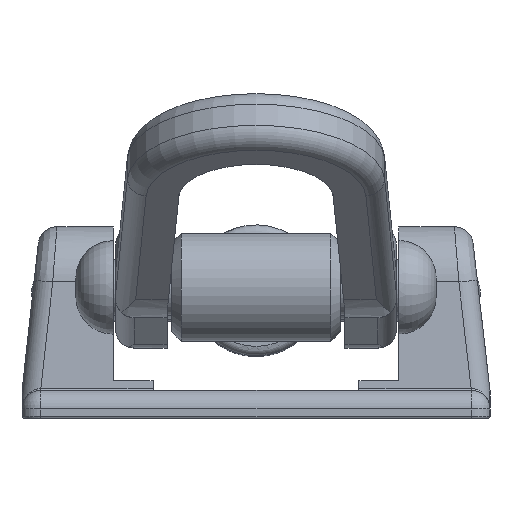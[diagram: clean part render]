
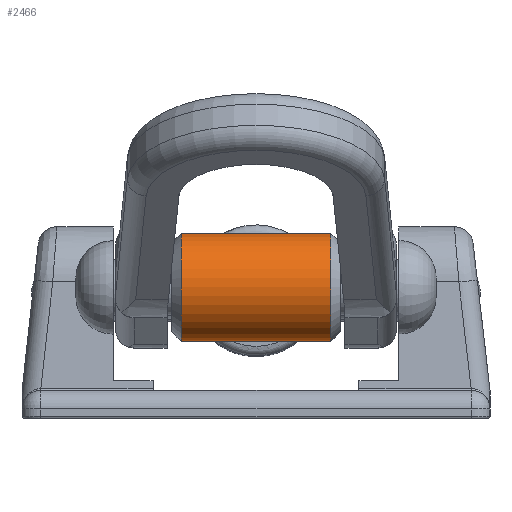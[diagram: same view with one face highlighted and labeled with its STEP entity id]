
A CAD part, left-side view. The second image highlights one B-rep face of the part: STEP entity #2466.
In plain terms, the highlighted cylindrical face has radius 5.75 mm (diameter 11.5 mm), a full revolution.
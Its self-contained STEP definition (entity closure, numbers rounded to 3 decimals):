
#122=B_SPLINE_CURVE_WITH_KNOTS('',3,(#11175,#11176,#11177,#11178,#11179,
#11180,#11181,#11182,#11183,#11184,#11185,#11186,#11187,#11188,#11189,#11190,
#11191,#11192,#11193),.UNSPECIFIED.,.T.,.F.,(1,1,1,1,1,1,1,1,1,1,1,1,1,
1,1,1,1,1,1,1,1,1,1),(-0.005,-0.003,-0.002,
0.,0.002,0.003,0.005,
0.006,0.008,0.01,0.011,
0.013,0.015,0.016,0.018,
0.019,0.021,0.023,0.024,
0.026,0.028,0.029,0.031),
 .UNSPECIFIED.);
#213=CIRCLE('',#2788,5.75);
#216=CIRCLE('',#2792,5.75);
#297=CYLINDRICAL_SURFACE('',#2805,5.75);
#971=ORIENTED_EDGE('',*,*,#1335,.F.);
#972=ORIENTED_EDGE('',*,*,#1318,.T.);
#973=ORIENTED_EDGE('',*,*,#1321,.F.);
#1318=EDGE_CURVE('',#1552,#1552,#213,.T.);
#1321=EDGE_CURVE('',#1555,#1555,#216,.T.);
#1335=EDGE_CURVE('',#1566,#1566,#122,.T.);
#1552=VERTEX_POINT('',#4452);
#1555=VERTEX_POINT('',#4459);
#1566=VERTEX_POINT('',#11194);
#2038=EDGE_LOOP('',(#971));
#2039=EDGE_LOOP('',(#972));
#2040=EDGE_LOOP('',(#973));
#2244=FACE_BOUND('',#2038,.T.);
#2245=FACE_BOUND('',#2039,.T.);
#2246=FACE_BOUND('',#2040,.T.);
#2466=ADVANCED_FACE('',(#2244,#2245,#2246),#297,.T.);
#2788=AXIS2_PLACEMENT_3D('',#4451,#3475,#3476);
#2792=AXIS2_PLACEMENT_3D('',#4458,#3483,#3484);
#2805=AXIS2_PLACEMENT_3D('',#11198,#3509,#3510);
#3475=DIRECTION('',(0.,1.,0.));
#3476=DIRECTION('',(0.,0.,1.));
#3483=DIRECTION('',(0.,1.,0.));
#3484=DIRECTION('',(0.,0.,1.));
#3509=DIRECTION('',(0.,1.,0.));
#3510=DIRECTION('',(0.,0.,1.));
#4451=CARTESIAN_POINT('',(0.,-8.,0.));
#4452=CARTESIAN_POINT('',(0.,-8.,5.75));
#4458=CARTESIAN_POINT('',(0.,8.,0.));
#4459=CARTESIAN_POINT('',(0.,8.,5.75));
#11175=CARTESIAN_POINT('',(4.368,1.625,3.767));
#11176=CARTESIAN_POINT('',(4.013,-0.002,4.116));
#11177=CARTESIAN_POINT('',(4.366,-1.615,3.77));
#11178=CARTESIAN_POINT('',(5.011,-2.877,2.91));
#11179=CARTESIAN_POINT('',(5.582,-3.763,1.642));
#11180=CARTESIAN_POINT('',(5.832,-4.116,0.009));
#11181=CARTESIAN_POINT('',(5.589,-3.774,-1.618));
#11182=CARTESIAN_POINT('',(5.015,-2.884,-2.905));
#11183=CARTESIAN_POINT('',(4.37,-1.626,-3.766));
#11184=CARTESIAN_POINT('',(4.012,-0.011,-4.116));
#11185=CARTESIAN_POINT('',(4.365,1.615,-3.771));
#11186=CARTESIAN_POINT('',(5.009,2.874,-2.914));
#11187=CARTESIAN_POINT('',(5.584,3.766,-1.635));
#11188=CARTESIAN_POINT('',(5.832,4.115,-0.012));
#11189=CARTESIAN_POINT('',(5.588,3.773,1.625));
#11190=CARTESIAN_POINT('',(5.012,2.879,2.909));
#11191=CARTESIAN_POINT('',(4.368,1.625,3.767));
#11192=CARTESIAN_POINT('',(4.013,-0.002,4.116));
#11193=CARTESIAN_POINT('',(4.366,-1.615,3.77));
#11194=CARTESIAN_POINT('',(4.131,0.,4.));
#11198=CARTESIAN_POINT('',(0.,-9.,0.));
